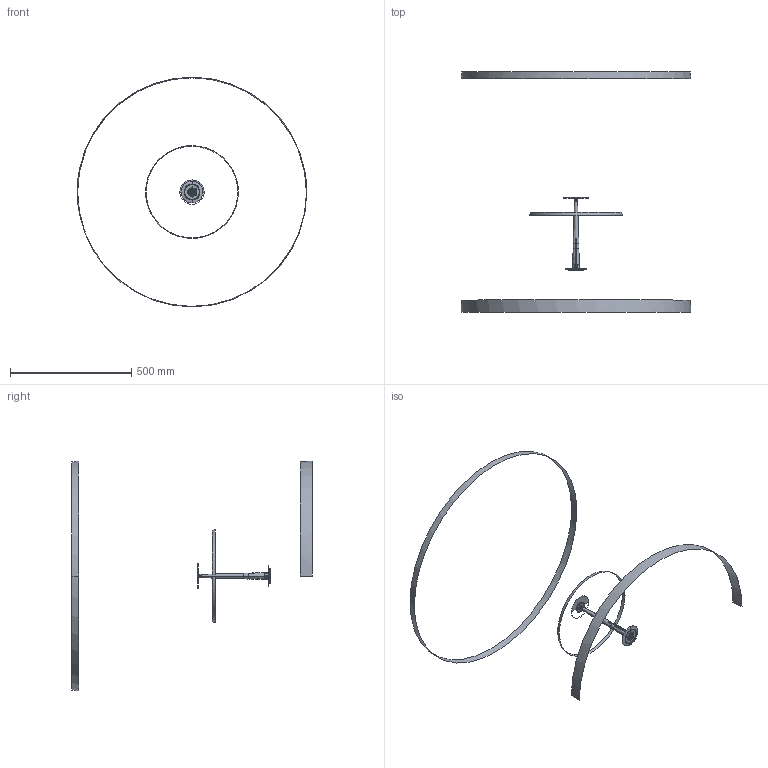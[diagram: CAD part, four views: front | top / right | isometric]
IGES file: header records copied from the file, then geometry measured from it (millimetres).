
Start section: SolidWorks IGES file using analytic representation for surfaces
Global section: file name: N:\- Ingeneria\DISEGNI\PRODOTTI\PORTOFINO\DOCUMENTI\800PORLWW111_PORTOFINO_alluminio.IGS; native system: SolidWorks 2016; preprocessor: SolidWorks 2016; author: BenedettoLiVolsi; date: 230704.154158; units: millimetre
Bounding box: 946.05 x 989.05 x 945.44 mm (x, y, z)
Surface area: 239540 mm2 (no closed solid volume)
Topology: 0 solids, 0 shells, 1338 faces, 17516 edges, 17511 vertices
Faces by surface type: bspline 1150, revolution 188
